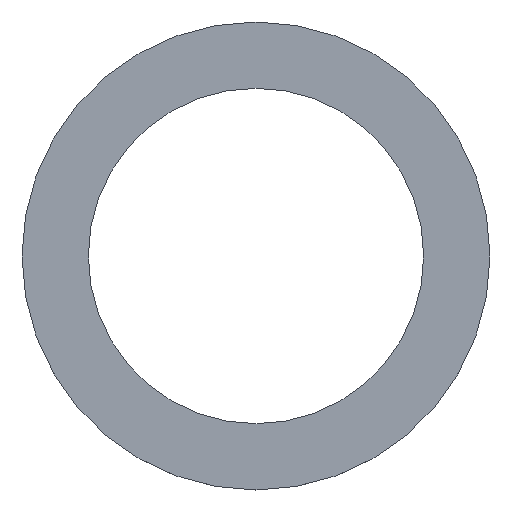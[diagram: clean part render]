
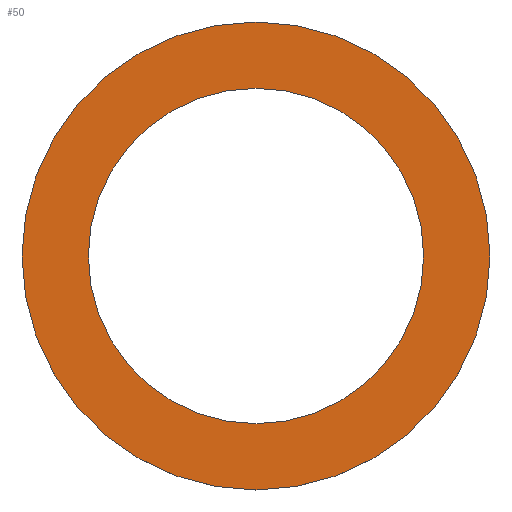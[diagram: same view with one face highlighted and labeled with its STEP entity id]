
A CAD part, top view. The second image highlights one B-rep face of the part: STEP entity #50.
In plain terms, the highlighted planar face has unit normal (0, 0, 1).
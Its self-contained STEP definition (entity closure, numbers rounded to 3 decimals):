
#21 = EDGE_CURVE('',#22,#22,#24,.T.);
#22 = VERTEX_POINT('',#23);
#23 = CARTESIAN_POINT('',(12.,0.,18.7));
#24 = CIRCLE('',#25,12.);
#25 = AXIS2_PLACEMENT_3D('',#26,#27,#28);
#26 = CARTESIAN_POINT('',(0.,0.,18.7));
#27 = DIRECTION('',(0.,0.,1.));
#28 = DIRECTION('',(1.,0.,0.));
#50 = ADVANCED_FACE('',(#51,#54),#65,.T.);
#51 = FACE_BOUND('',#52,.T.);
#52 = EDGE_LOOP('',(#53));
#53 = ORIENTED_EDGE('',*,*,#21,.T.);
#54 = FACE_BOUND('',#55,.T.);
#55 = EDGE_LOOP('',(#56));
#56 = ORIENTED_EDGE('',*,*,#57,.F.);
#57 = EDGE_CURVE('',#58,#58,#60,.T.);
#58 = VERTEX_POINT('',#59);
#59 = CARTESIAN_POINT('',(8.6,0.,18.7));
#60 = CIRCLE('',#61,8.6);
#61 = AXIS2_PLACEMENT_3D('',#62,#63,#64);
#62 = CARTESIAN_POINT('',(0.,0.,18.7));
#63 = DIRECTION('',(0.,0.,1.));
#64 = DIRECTION('',(1.,0.,0.));
#65 = PLANE('',#66);
#66 = AXIS2_PLACEMENT_3D('',#67,#68,#69);
#67 = CARTESIAN_POINT('',(0.,0.,18.7));
#68 = DIRECTION('',(0.,0.,1.));
#69 = DIRECTION('',(1.,0.,0.));
